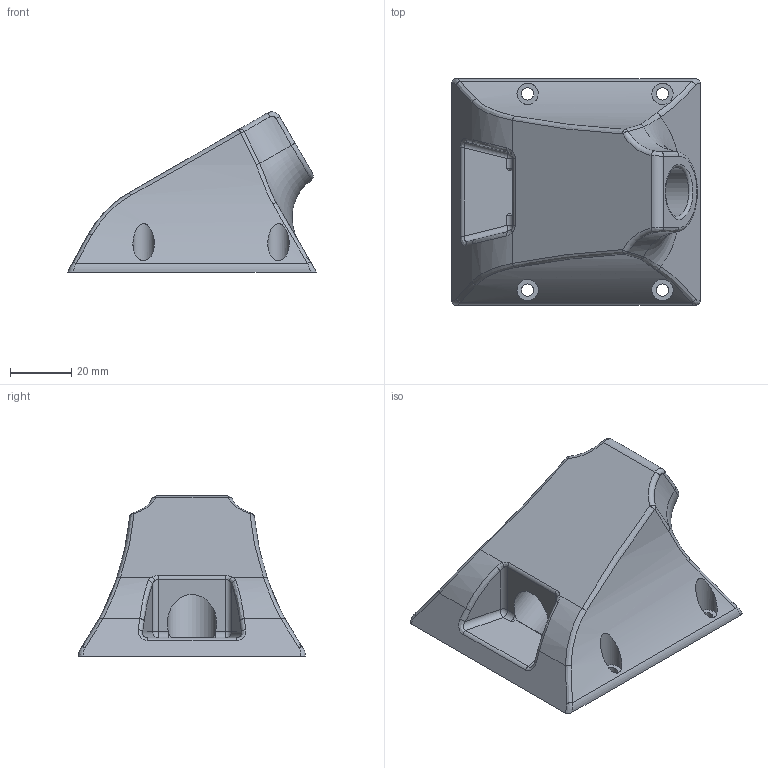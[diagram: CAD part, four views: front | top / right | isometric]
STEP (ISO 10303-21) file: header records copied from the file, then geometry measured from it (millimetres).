
FILE_DESCRIPTION(('FreeCAD Model'),'2;1');
FILE_NAME('Open CASCADE Shape Model','2026-02-14T11:32:34',(''),(''), 'Open CASCADE STEP processor 7.8','FreeCAD','Unknown');
FILE_SCHEMA(('AUTOMOTIVE_DESIGN { 1 0 10303 214 1 1 1 1 }'));
Length unit declared in the file: millimetre
Products named in the file (2): Iron Stand Part; Iron Stand Body
Assembly tree (1 placements, depth 2):
  Iron Stand Part
    Iron Stand Body
Bounding box: 81.15 x 74 x 52.26 mm (x, y, z)
Volume: 119045.1 mm3; surface area: 22084.5 mm2
Topology: 1 solids, 1 shells, 83 faces, 190 edges, 110 vertices
Faces by surface type: bspline 34, cylinder 29, plane 14, torus 4, sphere 2
Full cylindrical faces by diameter (mm): 4 x4, 7 x4, 16.1 x2
Entity records: 12228 total; most frequent: CARTESIAN_POINT 8950, DIRECTION 462, ORIENTED_EDGE 376, PCURVE 376, DEFINITIONAL_REPRESENTATION 376, LINE 275, VECTOR 275, EDGE_CURVE 188
